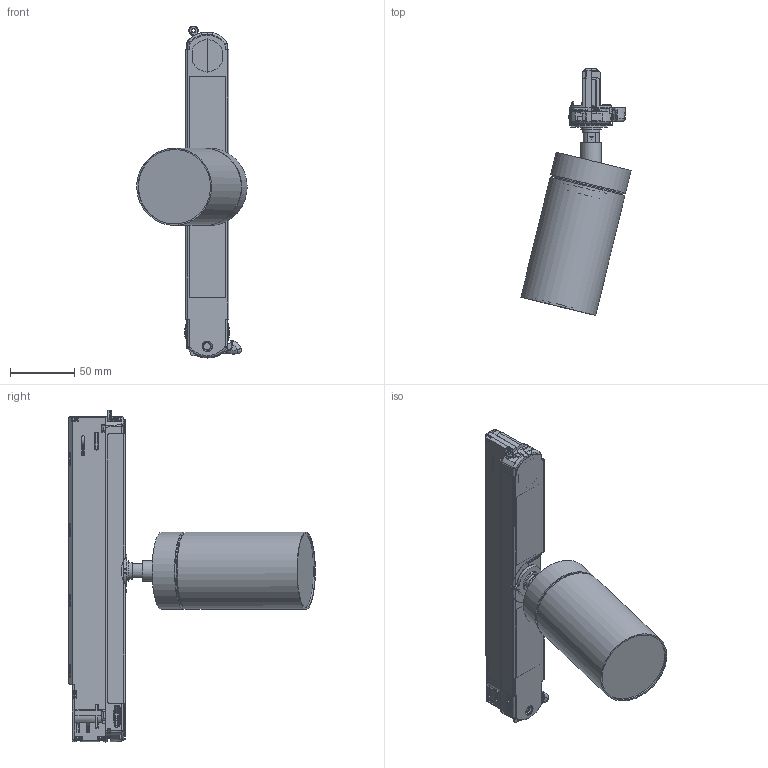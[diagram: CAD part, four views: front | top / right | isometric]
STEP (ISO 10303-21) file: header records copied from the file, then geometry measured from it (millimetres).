
FILE_DESCRIPTION(/* description */ (''),/* implementation_level */ '2;1');
FILE_NAME(/* name */ 'DOT SISTEMA.stp',/* time_stamp */ '2023-02-27T10:50:33+01:00',/* author */ ('n.bisotti'),/* organization */ (''),/* preprocessor_version */ 'ST-DEVELOPER v19.2',/* originating_system */ 'Autodesk Inventor 2023',/* authorisation */ '');
FILE_SCHEMA (('AUTOMOTIVE_DESIGN { 1 0 10303 214 3 1 1 }'));
Length unit declared in the file: millimetre
Products named in the file (1): Parte8
Bounding box: 85.77 x 191.72 x 258.11 mm (x, y, z)
Volume: 401701.2 mm3; surface area: 198864.2 mm2
Topology: 26 solids, 29 shells, 4835 faces, 13285 edges, 8462 vertices
Faces by surface type: plane 2370, cylinder 1464, bspline 682, torus 158, sphere 90, cone 71
Full cylindrical faces by diameter (mm): 1 x1, 1.3 x4, 1.5 x3, 2 x8, 2.4 x2, 2.719 x1, 3 x8, 3.2 x2, 3.3 x2, 3.8 x1, 5 x12, 6 x8, 7.4 x1, 8 x1, 8.917 x2, 10 x2, 12.1 x1, 12.6 x1, 13 x1, 16 x2, 25 x1, 48 x1, 49 x1, 50 x1, 53 x1, 54 x1, 55.835 x1, 58 x3, 60 x2
Entity records: 203843 total; most frequent: CARTESIAN_POINT 79150, ORIENTED_EDGE 26450, DIRECTION 23708, EDGE_CURVE 13230, VERTEX_POINT 8465, AXIS2_PLACEMENT_3D 8010, LINE 7688, VECTOR 7688
